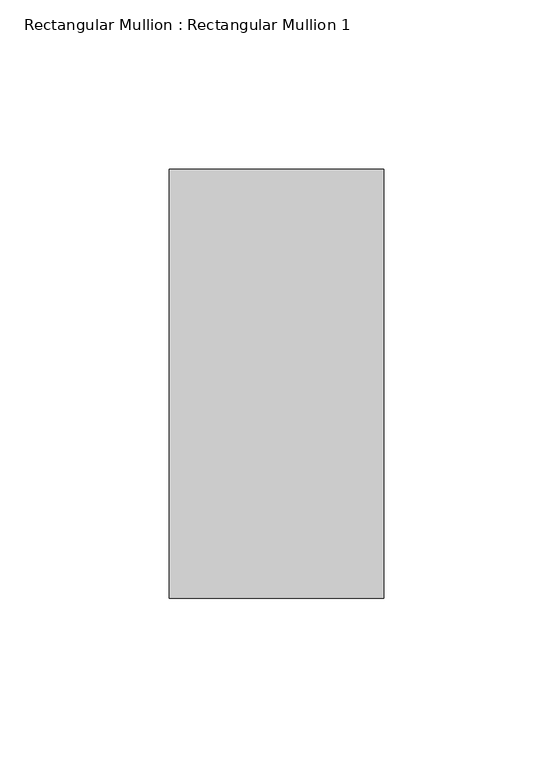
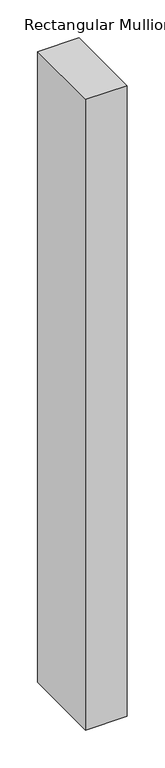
"""IFC4 building model written with IfcOpenShell, lengths in millimetres: member geometry, Rectangular Mullion : Rectangular Mullion 1."""

from ifc_helpers import new_model, si_unit, frame, origin, place, context, project, spatial, polyline, outline, extrude, source, transform, mapped, element, save


def rectangular_mullion_rectangular_mullion_1_625f5eac(model_context):
    return source(origin(), model_context, "Body", "SweptSolid", [
        extrude(outline(polyline([(0.0, 63.5), (0.0, -63.5), (-63.5, -63.5), (-63.5, 63.5), (0.0, 63.5)])), frame((0.0, 0.0, -1017.8142857), z_axis=(0.0, 0.0, 1.0), x_axis=(1.0, 0.0, 0.0)), (0.0, 0.0, 1.0), 1017.8142857),
    ])


if __name__ == "__main__":
    model = new_model("IFC4")
    model_context = context("Model", 3, world=origin())
    ifc_project = project(units=[si_unit("LENGTHUNIT", "METRE", prefix="MILLI")], contexts=[model_context])
    site = spatial("IfcSite", under=ifc_project)
    building = spatial("IfcBuilding", under=site)
    placement = place(None, origin())
    rectangular_mullion_rectangular_mullion_1_shape = rectangular_mullion_rectangular_mullion_1_625f5eac(model_context)
    element("IfcMember", 1, ObjectType="Rectangular Mullion : Rectangular Mullion 1", at=placement, inside=building, context=model_context, shape_type="MappedRepresentation", body=[
        mapped(rectangular_mullion_rectangular_mullion_1_shape, transform((0.0, 0.0, 0.0), x_axis=(1.0, 0.0, 0.0), y_axis=(0.0, 1.0, 0.0), z_axis=(0.0, 0.0, 1.0))),
    ])
    save(model, "model.ifc")
